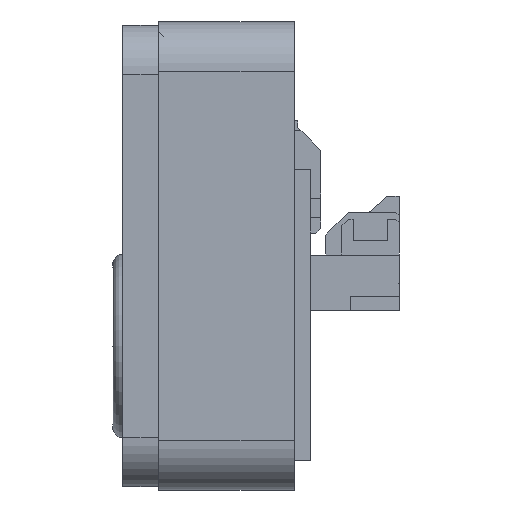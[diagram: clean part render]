
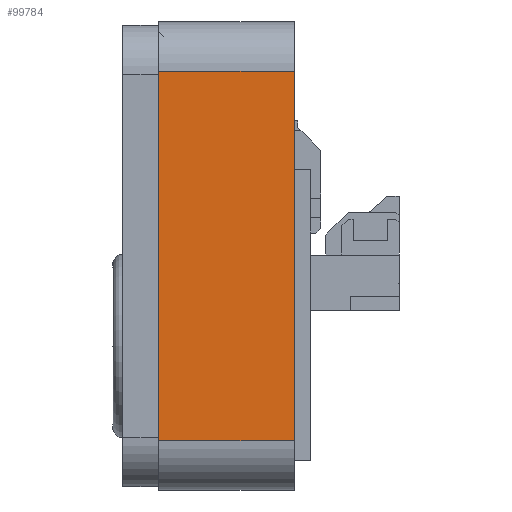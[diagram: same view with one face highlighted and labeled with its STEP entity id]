
A CAD part, left-side view. The second image highlights one B-rep face of the part: STEP entity #99784.
In plain terms, the highlighted planar face has unit normal (-1, 0, 0).
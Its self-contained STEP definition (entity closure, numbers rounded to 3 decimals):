
#93397=DIRECTION('',(0.,1.,0.));
#93398=VECTOR('',#93397,4.15);
#93399=CARTESIAN_POINT('',(-71.4,23.55,-19.1));
#93400=LINE('',#93399,#93398);
#93406=DIRECTION('',(0.,0.,-1.));
#93407=VECTOR('',#93406,11.3);
#93408=CARTESIAN_POINT('',(-71.4,27.7,-19.1));
#93409=LINE('',#93408,#93407);
#93464=DIRECTION('',(0.,0.,1.));
#93465=VECTOR('',#93464,11.3);
#93466=CARTESIAN_POINT('',(-71.4,23.55,-30.4));
#93467=LINE('',#93466,#93465);
#93553=DIRECTION('',(0.,-1.,0.));
#93554=VECTOR('',#93553,4.15);
#93555=CARTESIAN_POINT('',(-71.4,27.7,-30.4));
#93556=LINE('',#93555,#93554);
#98189=CARTESIAN_POINT('',(-71.4,23.55,-19.1));
#98190=CARTESIAN_POINT('',(-71.4,27.7,-19.1));
#98191=VERTEX_POINT('',#98189);
#98192=VERTEX_POINT('',#98190);
#98193=CARTESIAN_POINT('',(-71.4,23.55,-30.4));
#98194=VERTEX_POINT('',#98193);
#98195=CARTESIAN_POINT('',(-71.4,27.7,-30.4));
#98196=VERTEX_POINT('',#98195);
#99769=CARTESIAN_POINT('',(-71.4,0.,0.));
#99770=DIRECTION('',(1.,0.,0.));
#99771=DIRECTION('',(0.,1.,0.));
#99772=AXIS2_PLACEMENT_3D('',#99769,#99770,#99771);
#99773=PLANE('',#99772);
#99775=ORIENTED_EDGE('',*,*,#99774,.F.);
#99777=ORIENTED_EDGE('',*,*,#99776,.F.);
#99779=ORIENTED_EDGE('',*,*,#99778,.F.);
#99781=ORIENTED_EDGE('',*,*,#99780,.F.);
#99782=EDGE_LOOP('',(#99775,#99777,#99779,#99781));
#99783=FACE_OUTER_BOUND('',#99782,.F.);
#99774=EDGE_CURVE('',#98191,#98192,#93400,.T.);
#99776=EDGE_CURVE('',#98194,#98191,#93467,.T.);
#99778=EDGE_CURVE('',#98196,#98194,#93556,.T.);
#99780=EDGE_CURVE('',#98192,#98196,#93409,.T.);
#99784=ADVANCED_FACE('',(#99783),#99773,.F.);
